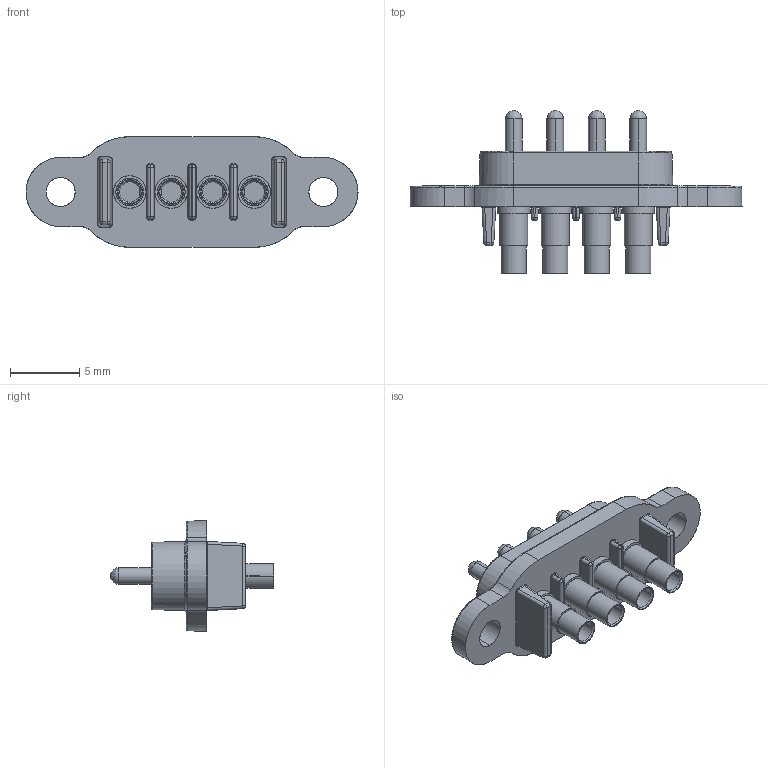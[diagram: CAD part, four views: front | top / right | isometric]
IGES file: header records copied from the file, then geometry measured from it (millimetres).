
Start section: SolidWorks IGES file using analytic representation for surfaces
Global section: file name: F:\OneDrive\Desktop\Coda\28.7\Swift-Dock add 3D\Swift-Dock add 3D\Swift-DOCK Ranges Completed\SD-Mini\SWIFT DOCK MINI-4-SC.IGS; native system: SolidWorks 2021; preprocessor: SolidWorks 2021; author: Georg; date: 210728.143108; units: millimetre
Bounding box: 24 x 11.8 x 8 mm (x, y, z)
Surface area: 1008.8 mm2 (no closed solid volume)
Topology: 0 solids, 0 shells, 344 faces, 3436 edges, 3428 vertices
Faces by surface type: revolution 206, bspline 138
